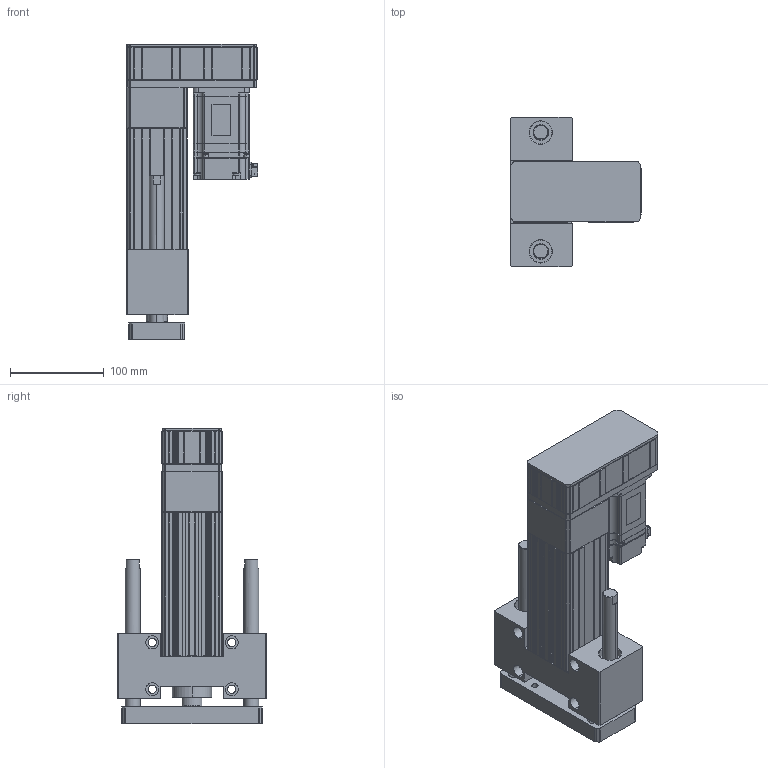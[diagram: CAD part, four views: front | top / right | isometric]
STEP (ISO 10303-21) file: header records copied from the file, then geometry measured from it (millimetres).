
FILE_DESCRIPTION (( 'STEP AP203' ), '1' );
FILE_NAME ('ANS065R-HP050-05(10)(20)-W40.STEP', '2019-03-01T09:25:59', ( 'user' ), ( '' ), 'SwSTEP 2.0', 'SolidWorks 2013', '' );
FILE_SCHEMA (( 'CONFIG_CONTROL_DESIGN' ));
Length unit declared in the file: millimetre
Products named in the file (4): ANS065R HP050 VER2; ANS065 ROD ST050 H; sgmjv_04a_a21; ANS065R-HP050-05(10)(20)-W40
Assembly tree (3 placements, depth 2):
  ANS065R-HP050-05(10)(20)-W40
    ANS065R HP050 VER2
    ANS065 ROD ST050 H
    sgmjv_04a_a21
Bounding box: 140.3 x 160 x 316 mm (x, y, z)
Volume: 1664700.7 mm3; surface area: 339753.5 mm2
Topology: 3 solids, 7 shells, 1457 faces, 3867 edges, 2498 vertices
Faces by surface type: plane 895, cylinder 452, cone 110
Entity records: 45317 total; most frequent: CARTESIAN_POINT 8114, ORIENTED_EDGE 7694, DIRECTION 7647, EDGE_CURVE 3847, VECTOR 2785, LINE 2785, VERTEX_POINT 2498, AXIS2_PLACEMENT_3D 2431
